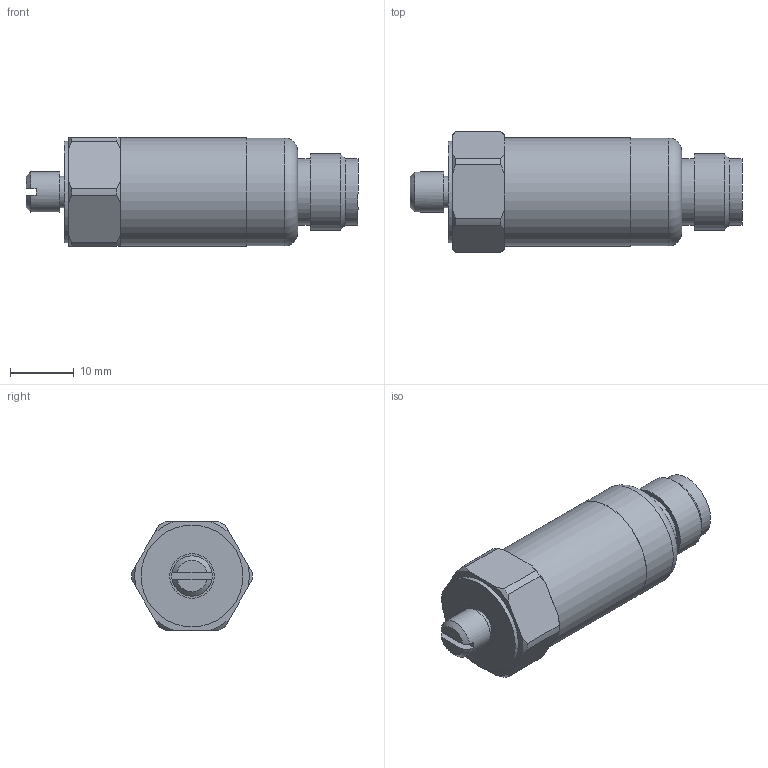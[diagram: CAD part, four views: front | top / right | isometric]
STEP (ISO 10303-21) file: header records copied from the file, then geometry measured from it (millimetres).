
FILE_DESCRIPTION(/* description */ (''),/* implementation_level */ '2;1');
FILE_NAME(/* name */ 'Z:\Engineering\Drawings\3D Library\Assemblies\Website\Premium Top\Compact\HS-170 Top M12\HS-1700105402.stp',/* time_stamp */ '2023-03-16T17:06:04+00:00',/* author */ ('Ricardo.Peneda'),/* organization */ (''),/* preprocessor_version */ 'ST-DEVELOPER v18.1',/* originating_system */ 'Autodesk Inventor 2021',/* authorisation */ '');
FILE_SCHEMA (('AUTOMOTIVE_DESIGN { 1 0 10303 214 3 1 1 }'));
Length unit declared in the file: inch
Products named in the file (1): HS-1700105402_Shrinkwrap_1
Bounding box: 52.2 x 19 x 17 mm (x, y, z)
Volume: 4456.8 mm3; surface area: 5245.9 mm2
Topology: 3 solids, 3 shells, 80 faces, 209 edges, 146 vertices
Faces by surface type: plane 37, cylinder 23, cone 19, torus 1
Full cylindrical faces by diameter (mm): 4.914 x2, 5.359 x1, 6.34 x2, 7 x1, 7.027 x1, 9.4 x1, 10.5 x2, 12 x1, 13.45 x1, 15.05 x1, 15.45 x1, 16 x1, 16.95 x1, 17 x1
Entity records: 2631 total; most frequent: CARTESIAN_POINT 499, DIRECTION 448, ORIENTED_EDGE 416, EDGE_CURVE 208, AXIS2_PLACEMENT_3D 191, VERTEX_POINT 146, CIRCLE 110, EDGE_LOOP 94
